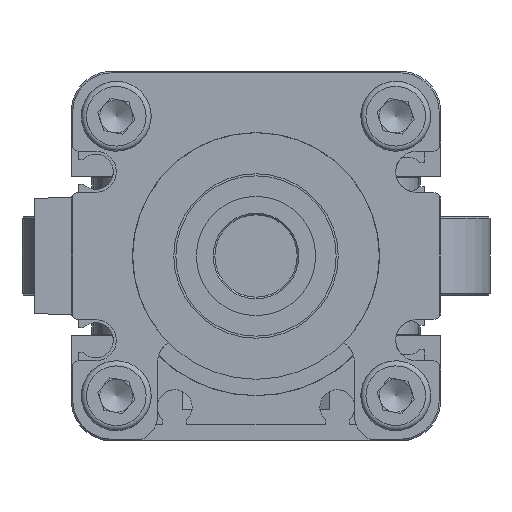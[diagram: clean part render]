
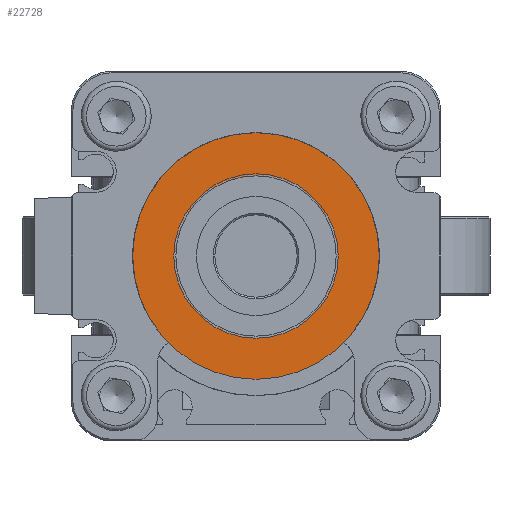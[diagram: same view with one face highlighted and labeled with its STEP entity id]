
A CAD part, front view. The second image highlights one B-rep face of the part: STEP entity #22728.
In plain terms, the highlighted planar face has unit normal (0, -1, 0).
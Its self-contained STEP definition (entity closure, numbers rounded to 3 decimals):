
#22728=ADVANCED_FACE('',(#26573,#26574),#24770,.T.);
#24770=PLANE('',#42687);
#26573=FACE_BOUND('',#27053,.T.);
#26574=FACE_BOUND('',#27054,.T.);
#27053=EDGE_LOOP('',(#29343));
#27054=EDGE_LOOP('',(#29344));
#29343=ORIENTED_EDGE('',*,*,#38513,.F.);
#29344=ORIENTED_EDGE('',*,*,#38514,.T.);
#36658=VERTEX_POINT('',#53797);
#36659=VERTEX_POINT('',#53799);
#38513=EDGE_CURVE('',#36658,#36658,#42172,.T.);
#38514=EDGE_CURVE('',#36659,#36659,#42173,.T.);
#42172=CIRCLE('',#42685,9.75);
#42173=CIRCLE('',#42686,15.);
#42685=AXIS2_PLACEMENT_3D('',#53796,#45289,#45290);
#42686=AXIS2_PLACEMENT_3D('',#53798,#45291,#45292);
#42687=AXIS2_PLACEMENT_3D('',#53800,#45293,#45294);
#45289=DIRECTION('',(0.,-1.,0.));
#45290=DIRECTION('',(1.,0.,0.));
#45291=DIRECTION('',(0.,-1.,0.));
#45292=DIRECTION('',(1.,0.,0.));
#45293=DIRECTION('',(0.,-1.,0.));
#45294=DIRECTION('',(0.,0.,-1.));
#53796=CARTESIAN_POINT('',(-200.,105.,-22.5));
#53797=CARTESIAN_POINT('',(-190.25,105.,-22.5));
#53798=CARTESIAN_POINT('',(-200.,105.,-22.5));
#53799=CARTESIAN_POINT('',(-185.,105.,-22.5));
#53800=CARTESIAN_POINT('',(-200.,105.,-22.5));
